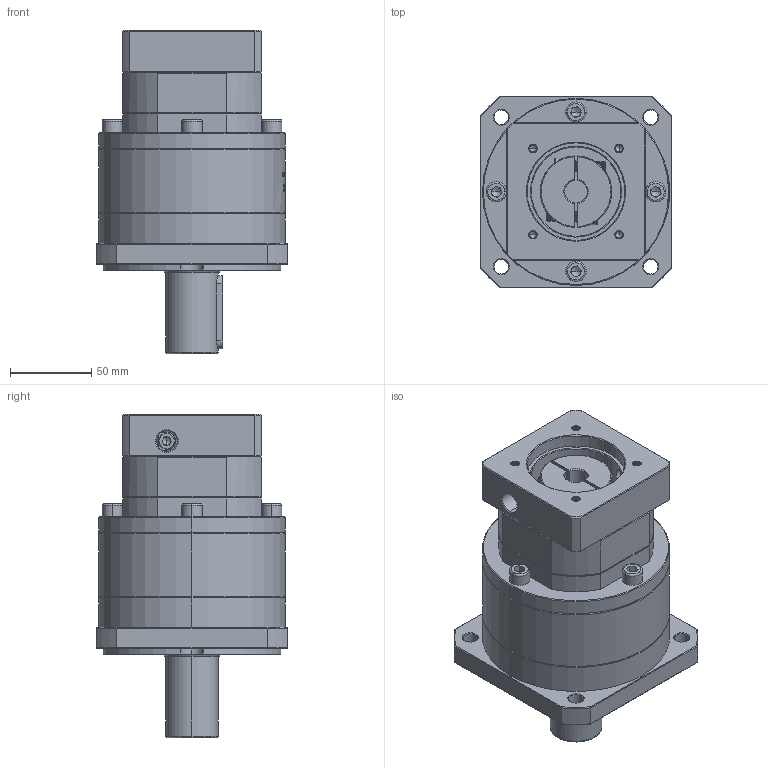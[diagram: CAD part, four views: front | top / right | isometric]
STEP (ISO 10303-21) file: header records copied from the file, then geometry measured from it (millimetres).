
FILE_DESCRIPTION (( 'STEP AP214' ), '1' );
FILE_NAME ('ZF120A-D32-L2-14-60-75-M5.step', '2023-03-07T15:01:45', ( '' ), ( 'Microsoft' ), 'SwSTEP 2.0', 'SolidWorks 2016', '' );
FILE_SCHEMA (( 'AUTOMOTIVE_DESIGN' ));
Length unit declared in the file: millimetre
Products named in the file (1): ZF120A-D32-L2-14-60-75-M5
Bounding box: 118 x 118 x 199 mm (x, y, z)
Volume: 1303793.7 mm3; surface area: 127095.2 mm2
Topology: 5 solids, 6 shells, 1941 faces, 5081 edges, 3232 vertices
Faces by surface type: plane 883, cylinder 402, bspline 321, cone 320, torus 15
Entity records: 105515 total; most frequent: CARTESIAN_POINT 40243, ORIENTED_EDGE 10102, DIRECTION 7797, EDGE_CURVE 5051, VERTEX_POINT 3232, VECTOR 2753, LINE 2753, AXIS2_PLACEMENT_3D 2522
